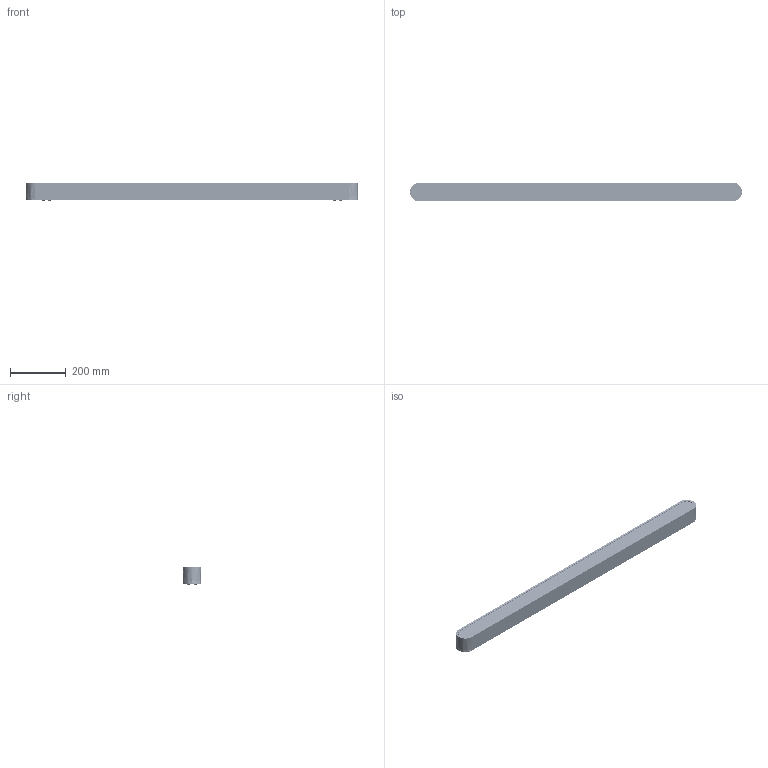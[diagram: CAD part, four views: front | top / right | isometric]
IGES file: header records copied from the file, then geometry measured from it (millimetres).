
Start section: SolidWorks IGES file using analytic representation for surfaces
Global section: file name: \\DC2003\projekty\soft\Profil 3D\Gotowe softy\SOFT 1200_plafon.IGS; native system: SolidWorks 2016; preprocessor: SolidWorks 2016; author: Asia; date: 160711.122802; units: millimetre
Bounding box: 1191.75 x 66.84 x 62 mm (x, y, z)
Surface area: 1049098.6 mm2 (no closed solid volume)
Topology: 0 solids, 0 shells, 6334 faces, 52610 edges, 52570 vertices
Faces by surface type: bspline 4685, revolution 1649
